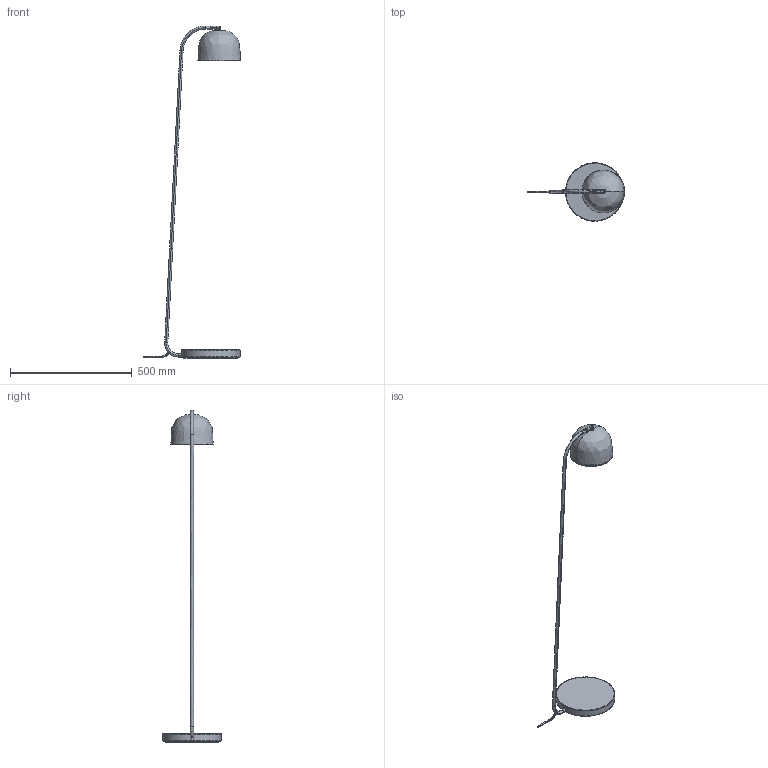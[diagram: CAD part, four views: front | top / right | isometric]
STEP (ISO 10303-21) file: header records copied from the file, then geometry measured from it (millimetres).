
FILE_DESCRIPTION(/* description */ (''),/* implementation_level */ '2;1');
FILE_NAME(/* name */ 'floor lamp assembled_16-06-2016',/* time_stamp */ '2016-06-16T13:55:22+02:00',/* author */ (''),/* organization */ (''),/* preprocessor_version */ 'ST-DEVELOPER v15',/* originating_system */ '',/* authorisation */ '');
FILE_SCHEMA (('AUTOMOTIVE_DESIGN'));
Length unit declared in the file: millimetre
Products named in the file (1): Document
Bounding box: 398.19 x 239.87 x 1362.2 mm (x, y, z)
Volume: 1763637.9 mm3; surface area: 507556.4 mm2
Topology: 19 solids, 19 shells, 270 faces, 583 edges, 356 vertices
Faces by surface type: bspline 171, plane 99
Entity records: 16443 total; most frequent: CARTESIAN_POINT 12965, ORIENTED_EDGE 1150, EDGE_CURVE 575, VERTEX_POINT 356, EDGE_LOOP 311, ADVANCED_FACE 270, FACE_OUTER_BOUND 270, B_SPLINE_CURVE_WITH_KNOTS 129
